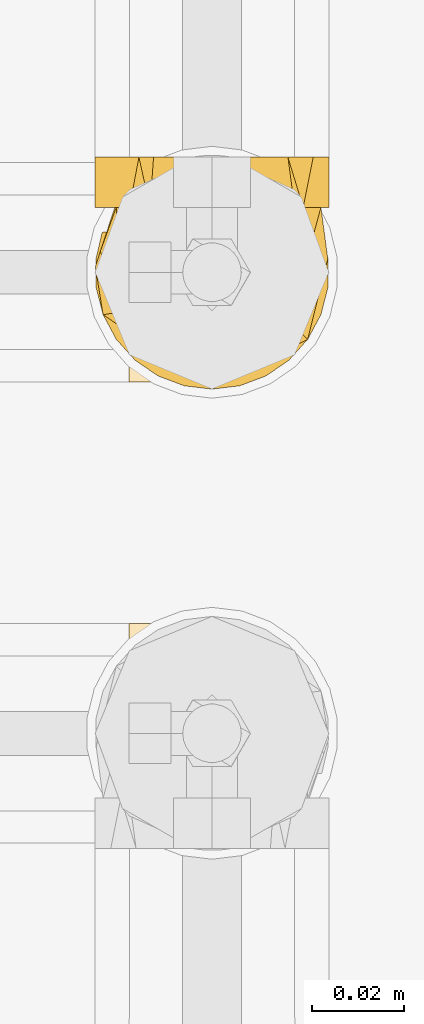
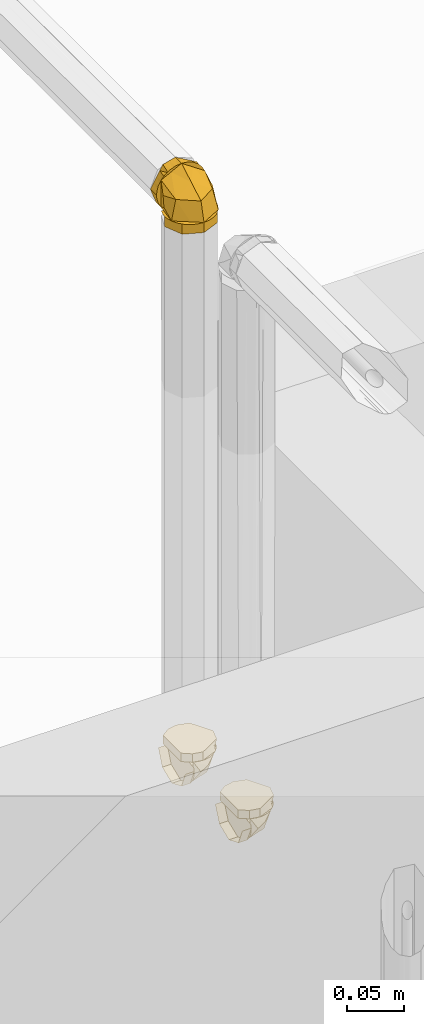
# One storey, part 396 of 652: 3 coverings.
"""IFC2X3 building model written with IfcOpenShell, lengths in millimetres."""

from ifc_helpers import new_model, entity, si_unit, converted_unit, direction, frame, origin, place, context, subcontext, project, spatial, face_set, surface_model, material, type_object, element, save


model = new_model("IFC2X3")

# Units and contexts
model_context = context("Model", 3, precision=0.01, world=frame((0.0, 0.0, 308426.39999999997)), true_north=direction((6.123233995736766e-17, 1.0)))
plan_context = context("Plan", 3, precision=0.01, world=frame((0.0, 0.0, 308426.39999999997)), true_north=direction((6.123233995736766e-17, 1.0)))
body_context = subcontext(model_context, "Body", "Model", "MODEL_VIEW")
ifc_project = project(units=[si_unit("LENGTHUNIT", "METRE", prefix="MILLI"), si_unit("AREAUNIT", "SQUARE_METRE"), si_unit("VOLUMEUNIT", "CUBIC_METRE"), converted_unit("PLANEANGLEUNIT", "DEGREE", entity("IfcPlaneAngleMeasure", 0.017453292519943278), si_unit("PLANEANGLEUNIT", "RADIAN"), dimensions=[0, 0, 0, 0, 0, 0, 0])], contexts=[model_context, plan_context])

# Site, building, storey
site_placement = place(None, origin())
site = spatial("IfcSite", under=ifc_project, at=site_placement, Name="Default", CompositionType="ELEMENT")
building_placement = place(site_placement, origin())
building = spatial("IfcBuilding", under=site, at=building_placement, CompositionType="ELEMENT")
storey_placement = place(building_placement, frame((0.0, 0.0, 1730.6999999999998)))
storey = spatial("IfcBuildingStorey", under=building, at=storey_placement, Name="EG_Produktion_FFB", CompositionType="ELEMENT", Elevation=1730.6999999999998)

# Coverings
ifc_material = material(Name="Dämmung - Armaflex-Schlauch")
covering_type = type_object("IfcCoveringType", Name="Rohrdämmung außen:Armaflex-Schlauch", PredefinedType="INSULATION")
covering_1_placement = place(storey_placement, frame((22072.92351223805, 63589.92931831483, 2674.6422277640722)))
element("IfcCovering", 1, at=covering_1_placement, inside=storey, type_object=covering_type, material=ifc_material, Name="Rohrdämmung außen:Armaflex-Schlauch", ObjectType="Rohrdämmung außen:Armaflex-Schlauch", PredefinedType="INSULATION", context=body_context, shape_type="SurfaceModel", body=[
    surface_model("IfcFaceBasedSurfaceModel", [(10.45842089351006, 47.37827577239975, 34.288272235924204), (10.45842089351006, 48.88520354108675, 28.691896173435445), (10.45842089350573, 48.99253247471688, 22.89717988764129), (10.45842089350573, 47.69387779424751, 17.248839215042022), (10.45842089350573, 45.066493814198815, 12.082882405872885), (10.458420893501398, 41.266678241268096, 7.706621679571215), (10.458420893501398, 36.520474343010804, 4.38039184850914), (10.458420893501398, 31.110224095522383, 2.3020635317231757), (10.458420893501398, 25.357772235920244, 1.595272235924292), (10.458420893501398, 19.605320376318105, 2.3020635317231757), (10.458420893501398, 14.195070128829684, 4.38039184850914), (10.458420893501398, 9.44886623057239, 7.706621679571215), (10.45842089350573, 5.649050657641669, 12.082882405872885), (10.45842089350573, 3.0216666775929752, 17.248839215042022), (10.45842089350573, 1.7230119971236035, 22.89717988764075), (10.45842089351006, 1.8303409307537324, 28.691896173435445), (10.45842089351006, 3.3372686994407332, 34.288272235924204), (16.054796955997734, 1.8303409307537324, 34.28827223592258), (21.849513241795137, 1.7230119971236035, 34.28827223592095), (27.497853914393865, 3.0216666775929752, 34.28827223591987), (32.663810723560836, 5.649050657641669, 34.28827223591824), (37.04007144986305, 9.44886623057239, 34.28827223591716), (40.36630128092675, 14.195070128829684, 34.28827223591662), (42.444629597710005, 19.605320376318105, 34.288272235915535), (43.15142089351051, 25.357772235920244, 34.288272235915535), (42.444629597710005, 31.110224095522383, 34.288272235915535), (40.36630128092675, 36.520474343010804, 34.28827223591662), (37.04007144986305, 41.266678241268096, 34.28827223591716), (32.663810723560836, 45.066493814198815, 34.28827223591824), (27.497853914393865, 47.69387779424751, 34.28827223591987), (21.849513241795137, 48.99253247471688, 34.28827223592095), (16.054796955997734, 48.88520354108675, 34.28827223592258), (25.364842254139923, 47.7165435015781, 26.166056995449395), (27.878642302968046, 41.2146147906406, 14.151674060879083), (21.432524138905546, 46.2375640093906, 34.28823564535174), (10.458775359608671, 35.09870902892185, 6.7782869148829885), (26.804289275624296, 25.35976859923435, 5.975428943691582), (37.908262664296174, 35.21033012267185, 34.28823564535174), (35.606077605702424, 25.35976859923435, 21.22013795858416), (17.539738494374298, 48.57695609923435, 22.222983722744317), (10.458775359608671, 46.22361137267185, 23.18571565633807), (25.364842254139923, 2.9983428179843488, 26.166056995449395), (17.539738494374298, 2.1379302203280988, 22.222983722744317), (27.878642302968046, 9.500271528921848, 14.151674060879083), (10.458775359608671, 15.6161772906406, 6.7782869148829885), (21.432524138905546, 4.481973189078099, 34.28823564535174), (37.96872409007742, 15.6161772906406, 34.28823564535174), (34.978208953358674, 25.35976859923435, 20.13183229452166), (10.458775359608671, 4.491274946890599, 23.18571565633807), (1.4383957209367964, 49.1211089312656, 25.357676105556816), (10.458775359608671, 49.1211089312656, 25.357676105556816), (10.458775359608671, 42.15874320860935, 8.55521333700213), (1.4383957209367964, 42.15874320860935, 8.55521333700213), (10.458775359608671, 25.35976859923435, 1.5951730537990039), (1.4383957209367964, 25.35976859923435, 1.5951730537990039), (10.458775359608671, 8.5561431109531, 8.55521333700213), (1.4383957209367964, 8.5561431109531, 8.55521333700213), (10.458775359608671, 1.5937773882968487, 25.357676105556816), (1.4383957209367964, 1.5937773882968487, 25.357676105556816), (24.53365305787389, 4.56558473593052, 43.3080222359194), (29.678385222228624, 7.5358972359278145, 43.308022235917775), (34.82311738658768, 10.506209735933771, 43.30802223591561), (39.96784955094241, 13.476522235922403, 43.30802223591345), (41.55963522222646, 19.417147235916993, 43.30802223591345), (43.151420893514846, 25.357772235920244, 43.30802223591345), (40.18110839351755, 30.502504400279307, 43.30802223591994), (37.21079589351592, 35.6472365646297, 43.308022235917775), (34.24048339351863, 40.79196872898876, 43.30802223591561), (31.270170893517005, 45.936700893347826, 43.30802223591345), (25.32954589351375, 47.528486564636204, 43.30802223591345), (19.388920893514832, 49.12027223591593, 43.30802223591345), (14.510241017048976, 48.07242355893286, 43.308022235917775), (9.63156114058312, 47.024574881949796, 43.30802223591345), (5.6134166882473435, 44.06585567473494, 43.30802223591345), (1.5952722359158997, 41.10713646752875, 43.30802223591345), (1.5952722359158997, 9.608408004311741, 43.30802223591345), (5.6134166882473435, 6.649688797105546, 43.308022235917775), (9.63156114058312, 3.690969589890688, 43.30802223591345), (14.510241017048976, 2.643120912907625, 43.30802223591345), (19.388920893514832, 1.5952722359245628, 43.30802223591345), (36.19154578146, 8.55514734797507, 34.2882722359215), (31.990889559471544, 6.81517856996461, 34.2882722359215), (27.790233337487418, 5.075209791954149, 34.2882722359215), (23.58957711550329, 3.335241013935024, 34.28827223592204), (19.388920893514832, 1.5952722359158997, 34.2882722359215), (14.510241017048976, 2.643120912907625, 34.2882722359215), (9.63156114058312, 3.690969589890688, 34.2882722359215), (5.504797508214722, 6.729669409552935, 34.2882722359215), (1.5952722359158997, 9.608408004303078, 34.2882722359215), (1.5952722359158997, 41.10713646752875, 34.2882722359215), (5.6134166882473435, 44.06585567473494, 34.2882722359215), (9.63156114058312, 47.024574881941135, 34.2882722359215), (14.642122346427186, 48.10074918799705, 34.2882722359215), (19.388920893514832, 49.12027223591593, 34.2882722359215), (23.58957711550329, 47.38030345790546, 34.2882722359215), (27.790233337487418, 45.64033467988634, 34.2882722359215), (31.990889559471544, 43.90036590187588, 34.2882722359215), (36.19154578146, 42.160397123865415, 34.2882722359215), (37.9315145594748, 37.95974090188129, 34.2882722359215), (39.671483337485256, 33.759084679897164, 34.2882722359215), (41.41145211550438, 29.558428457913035, 34.2882722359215), (43.151420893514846, 25.357772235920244, 34.2882722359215), (41.41145211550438, 21.157116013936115, 34.2882722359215), (39.671483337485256, 16.956459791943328, 34.2882722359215), (37.9315145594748, 12.755803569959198, 34.2882722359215)], [face_set([[[0, 1, 2, 3, 4, 5, 6, 7, 8, 9, 10, 11, 12, 13, 14, 15]], [[16, 17, 18, 19, 20, 21, 22, 23, 24, 25, 26, 27, 28, 29, 30, 31]], [[32, 28, 33]], [[32, 34, 28]], [[33, 35, 4]], [[35, 33, 36]], [[36, 8, 35]], [[33, 37, 38]], [[39, 4, 40]], [[32, 33, 39]], [[34, 32, 0]], [[4, 39, 33]], [[38, 36, 33]], [[0, 32, 39]], [[33, 28, 37]], [[37, 24, 38]], [[0, 39, 40]], [[41, 16, 42]], [[43, 44, 36]], [[20, 45, 41]], [[46, 43, 47]], [[44, 8, 36]], [[12, 43, 42]], [[44, 43, 12]], [[42, 16, 48]], [[20, 43, 46]], [[16, 41, 45]], [[43, 41, 42]], [[43, 36, 47]], [[47, 24, 46]], [[20, 41, 43]], [[48, 12, 42]]]), face_set([[[49, 50, 51, 52]], [[53, 54, 52, 51]], [[54, 53, 55, 56]], [[57, 58, 56, 55]]]), face_set([[[59, 60, 61, 62, 63, 64, 65, 66, 67, 68, 69, 70, 71, 72, 73, 74, 75, 76, 77, 78, 79]], [[80, 81, 82, 83, 84, 85, 86, 87, 88, 89, 90, 91, 92, 93, 94, 95, 96, 97, 98, 99, 100, 101, 102, 103, 104]], [[75, 74, 89, 88]], [[71, 70, 93, 92, 91, 72]], [[73, 72, 91, 90, 89, 74]], [[96, 67, 97]], [[64, 100, 65]], [[100, 99, 65]], [[69, 95, 94]], [[94, 93, 70]], [[67, 96, 68]], [[66, 99, 98]], [[64, 101, 100]], [[99, 66, 65]], [[70, 69, 94]], [[98, 97, 67]], [[96, 95, 68]], [[69, 68, 95]], [[66, 98, 67]], [[104, 61, 80]], [[79, 83, 59]], [[83, 82, 59]], [[63, 103, 102]], [[102, 101, 64]], [[61, 104, 62]], [[60, 82, 81]], [[79, 84, 83]], [[82, 60, 59]], [[64, 63, 102]], [[81, 80, 61]], [[104, 103, 62]], [[63, 62, 103]], [[60, 81, 61]], [[76, 75, 88, 87, 86, 77]], [[78, 77, 86, 85, 84, 79]]])]),
])
covering_2_placement = place(storey_placement, frame((22065.367160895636, 63588.34181831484, 3273.48287458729)))
element("IfcCovering", 2, at=covering_2_placement, inside=storey, type_object=covering_type, material=ifc_material, Name="Rohrdämmung außen:Armaflex-Schlauch", ObjectType="Rohrdämmung außen:Armaflex-Schlauch", PredefinedType="INSULATION", context=body_context, shape_type="SurfaceModel", body=[
    surface_model("IfcFaceBasedSurfaceModel", [(48.02950862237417, 41.01927223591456, 12.443125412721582), (50.77002630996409, 35.60573373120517, 12.4431254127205), (52.14558701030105, 29.69602400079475, 12.443125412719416), (52.0773827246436, 23.62871944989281, 12.443125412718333), (50.56932098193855, 17.7514253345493, 12.44312541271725), (47.707800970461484, 12.400860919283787, 12.44312541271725), (43.65676359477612, 7.883568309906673, 12.443125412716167), (38.64829904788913, 4.458350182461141, 12.443125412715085), (32.96935000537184, 2.321442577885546, 12.443125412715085), (26.9452722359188, 1.5952722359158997, 12.443125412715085), (20.92119446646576, 2.321442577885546, 12.443125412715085), (15.242245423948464, 4.458350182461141, 12.443125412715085), (10.233780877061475, 7.883568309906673, 12.443125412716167), (6.182743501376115, 12.400860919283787, 12.44312541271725), (3.321223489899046, 17.7514253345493, 12.44312541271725), (1.8131617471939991, 23.62871944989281, 12.443125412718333), (1.7449574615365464, 29.69602400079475, 12.443125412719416), (3.1205181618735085, 35.60573373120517, 12.4431254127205), (5.861035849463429, 41.01927223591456, 12.443125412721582), (50.77002630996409, 41.01927223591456, 17.856663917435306), (52.14558701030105, 41.01927223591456, 23.766373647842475), (52.0773827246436, 41.01927223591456, 29.8336781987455), (50.56932098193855, 41.01927223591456, 35.71097231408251), (47.707800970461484, 41.019272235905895, 41.06153672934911), (43.65676359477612, 41.019272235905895, 45.57882933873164), (38.64829904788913, 41.019272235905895, 49.00404746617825), (32.96935000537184, 41.019272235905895, 51.14095507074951), (26.9452722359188, 41.019272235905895, 51.86712541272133), (20.92119446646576, 41.019272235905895, 51.14095507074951), (15.242245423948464, 41.019272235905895, 49.00404746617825), (10.233780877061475, 41.019272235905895, 45.57882933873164), (6.182743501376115, 41.019272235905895, 41.06153672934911), (3.321223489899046, 41.01927223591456, 35.71097231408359), (1.8131617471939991, 41.01927223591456, 29.8336781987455), (1.7449574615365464, 41.01927223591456, 23.766373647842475), (3.1205181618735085, 41.01927223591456, 17.856663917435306), (52.05490941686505, 29.872671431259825, 26.012413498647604), (43.78564672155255, 16.064211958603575, 34.06831712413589), (37.62090673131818, 7.153127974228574, 12.442892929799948), (26.944814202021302, 6.878726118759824, 32.15506181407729), (47.86911840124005, 26.710073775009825, 12.442892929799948), (38.758046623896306, 41.020828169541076, 43.78923539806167), (26.944814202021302, 23.947451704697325, 42.01085557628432), (49.33647069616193, 41.020828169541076, 24.40611619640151), (1.6463583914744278, 28.105337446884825, 21.334792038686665), (7.957601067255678, 18.426858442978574, 33.48056230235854), (16.271047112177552, 41.020828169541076, 46.31175584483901), (17.229128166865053, 8.241433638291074, 12.442892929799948), (2.7090842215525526, 31.440017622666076, 31.701601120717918), (4.590364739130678, 29.384329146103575, 12.442892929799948), (5.992604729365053, 41.020828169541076, 24.214267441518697), (52.29442968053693, 26.947268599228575, 1.5499531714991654), (52.29442968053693, 26.947268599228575, 12.442892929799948), (44.8693015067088, 9.018130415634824, 12.442892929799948), (44.8693015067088, 9.018130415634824, 1.5499531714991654), (26.944814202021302, 1.5953276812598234, 12.442892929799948), (26.944814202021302, 1.5953276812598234, 1.5499531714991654), (9.020326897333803, 9.018130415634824, 12.442892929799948), (9.020326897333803, 9.018130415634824, 1.5499531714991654), (1.5951987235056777, 26.947268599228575, 12.442892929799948), (1.5951987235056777, 26.947268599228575, 1.5499531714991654), (22.305904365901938, 51.91227223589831, 1.5952722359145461), (14.877316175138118, 51.91227223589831, 5.955160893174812), (7.448727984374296, 51.91227223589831, 10.315049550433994), (4.522000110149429, 51.91227223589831, 18.416087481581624), (1.5952722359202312, 51.91227223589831, 26.51712541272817), (4.7640222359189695, 51.912272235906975, 32.005561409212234), (7.932772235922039, 51.91227223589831, 37.49399740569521), (11.101522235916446, 51.91227223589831, 42.982433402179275), (14.270272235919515, 51.91227223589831, 48.47086939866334), (20.607772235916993, 51.91227223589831, 50.1689974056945), (26.9452722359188, 51.91227223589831, 51.86712541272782), (32.433708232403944, 51.912272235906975, 48.698375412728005), (37.92214422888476, 51.91227223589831, 45.52962541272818), (43.410580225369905, 51.91227223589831, 42.36087541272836), (48.89901622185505, 51.91227223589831, 39.19212541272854), (50.597144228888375, 51.91227223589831, 32.85462541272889), (52.295272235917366, 51.91227223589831, 26.51712541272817), (49.36854436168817, 51.91227223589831, 18.416087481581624), (46.441816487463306, 51.91227223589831, 10.315049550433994), (39.01322829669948, 51.91227223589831, 5.955160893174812), (31.584640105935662, 51.91227223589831, 1.5952722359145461), (9.020115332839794, 41.019272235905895, 44.44228231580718), (7.163904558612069, 41.019272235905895, 39.96099309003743), (5.307693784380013, 41.019272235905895, 35.47970386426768), (3.4514830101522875, 41.01927223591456, 30.998414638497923), (1.5952722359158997, 41.019272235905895, 26.51712541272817), (4.522000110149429, 41.019272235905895, 18.416087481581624), (7.448727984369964, 41.019272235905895, 10.315049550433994), (14.761316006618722, 41.019272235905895, 6.023242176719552), (18.53361018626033, 41.019272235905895, 3.8092572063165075), (22.305904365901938, 41.019272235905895, 1.5952722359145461), (31.584640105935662, 41.019272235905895, 1.5952722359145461), (39.01322829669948, 41.019272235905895, 5.955160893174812), (46.441816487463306, 41.019272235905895, 10.315049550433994), (49.32284242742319, 41.019272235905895, 18.289586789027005), (50.80905733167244, 41.01927223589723, 22.403356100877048), (52.295272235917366, 41.019272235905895, 26.51712541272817), (50.43906146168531, 41.01927223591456, 30.998414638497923), (48.58285068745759, 41.01927223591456, 35.47970386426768), (46.72663991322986, 41.019272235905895, 39.96099309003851), (44.87042913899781, 41.019272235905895, 44.44228231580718), (40.38913991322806, 41.01927223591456, 46.29849309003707), (35.9078506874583, 41.019272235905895, 48.15470386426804), (31.42656146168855, 41.01927223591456, 50.01091463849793), (26.9452722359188, 41.019272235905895, 51.86712541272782), (22.463983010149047, 41.01927223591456, 50.01091463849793), (17.982693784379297, 41.019272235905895, 48.15470386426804), (13.501404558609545, 41.01927223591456, 46.29849309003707)], [face_set([[[0, 1, 2, 3, 4, 5, 6, 7, 8, 9, 10, 11, 12, 13, 14, 15, 16, 17]], [[18, 19, 20, 21, 22, 23, 24, 25, 26, 27, 28, 29, 30, 31, 32, 33, 34, 35]], [[36, 22, 37]], [[37, 38, 5]], [[39, 9, 38]], [[36, 5, 40, 0]], [[39, 38, 37]], [[41, 42, 37]], [[43, 22, 36]], [[36, 37, 5]], [[0, 43, 36]], [[37, 22, 41]], [[42, 41, 27]], [[42, 39, 37]], [[44, 14, 45]], [[46, 31, 45]], [[46, 45, 42]], [[47, 9, 39]], [[48, 44, 45]], [[47, 45, 14]], [[18, 49, 44]], [[39, 45, 47]], [[18, 44, 48]], [[31, 50, 48]], [[18, 48, 50]], [[45, 39, 42]], [[42, 27, 46]], [[31, 48, 45]], [[49, 14, 44]]]), face_set([[[51, 52, 53, 54]], [[55, 56, 54, 53]], [[56, 55, 57, 58]], [[59, 60, 58, 57]]]), face_set([[[61, 62, 63, 64, 65, 66, 67, 68, 69, 70, 71, 72, 73, 74, 75, 76, 77, 78, 79, 80, 81]], [[82, 83, 84, 85, 86, 87, 88, 89, 90, 91, 92, 93, 94, 95, 96, 97, 98, 99, 100, 101, 102, 103, 104, 105, 106, 107, 108]], [[61, 81, 92, 91]], [[79, 78, 77, 97, 96, 95, 94]], [[80, 79, 94, 93, 92, 81]], [[100, 74, 101]], [[71, 104, 72]], [[104, 103, 72]], [[76, 99, 98]], [[98, 97, 77]], [[74, 100, 75]], [[73, 103, 102]], [[71, 105, 104]], [[103, 73, 72]], [[77, 76, 98]], [[102, 101, 74]], [[100, 99, 75]], [[76, 75, 99]], [[73, 102, 74]], [[108, 68, 82]], [[65, 85, 66]], [[85, 84, 66]], [[70, 107, 106]], [[106, 105, 71]], [[68, 108, 69]], [[67, 84, 83]], [[65, 86, 85]], [[84, 67, 66]], [[71, 70, 106]], [[83, 82, 68]], [[108, 107, 69]], [[70, 69, 107]], [[67, 83, 68]], [[63, 62, 61, 91, 90, 89, 88]], [[64, 63, 88, 87, 86, 65]]])]),
])
covering_3_placement = place(storey_placement, frame((22072.923512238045, 63489.92931831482, 2674.642227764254)))
element("IfcCovering", 3, at=covering_3_placement, inside=storey, type_object=covering_type, material=ifc_material, Name="Rohrdämmung außen:Armaflex-Schlauch", ObjectType="Rohrdämmung außen:Armaflex-Schlauch", PredefinedType="INSULATION", context=body_context, shape_type="SurfaceModel", body=[
    surface_model("IfcFaceBasedSurfaceModel", [(10.45842089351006, 47.37827577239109, 34.288272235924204), (10.45842089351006, 48.88520354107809, 28.691896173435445), (10.45842089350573, 48.99253247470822, 22.89717988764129), (10.45842089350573, 47.69387779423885, 17.248839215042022), (10.45842089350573, 45.06649381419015, 12.082882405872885), (10.458420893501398, 41.266678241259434, 7.706621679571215), (10.458420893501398, 36.52047434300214, 4.38039184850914), (10.458420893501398, 31.11022409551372, 2.3020635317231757), (10.458420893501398, 25.35777223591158, 1.595272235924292), (10.458420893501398, 19.605320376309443, 2.3020635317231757), (10.458420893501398, 14.19507012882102, 4.38039184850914), (10.458420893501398, 9.448866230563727, 7.706621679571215), (10.45842089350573, 5.649050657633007, 12.082882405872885), (10.45842089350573, 3.0216666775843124, 17.248839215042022), (10.45842089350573, 1.7230119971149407, 22.89717988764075), (10.45842089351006, 1.8303409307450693, 28.691896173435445), (10.45842089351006, 3.3372686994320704, 34.288272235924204), (16.054796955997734, 1.8303409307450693, 34.28827223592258), (21.849513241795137, 1.7230119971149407, 34.28827223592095), (27.497853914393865, 3.0216666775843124, 34.28827223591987), (32.663810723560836, 5.649050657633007, 34.28827223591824), (37.04007144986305, 9.448866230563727, 34.28827223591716), (40.36630128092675, 14.19507012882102, 34.28827223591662), (42.444629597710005, 19.605320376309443, 34.288272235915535), (43.15142089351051, 25.35777223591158, 34.288272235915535), (42.444629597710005, 31.11022409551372, 34.288272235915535), (40.36630128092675, 36.52047434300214, 34.28827223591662), (37.04007144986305, 41.266678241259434, 34.28827223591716), (32.663810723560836, 45.06649381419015, 34.28827223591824), (27.497853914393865, 47.69387779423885, 34.28827223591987), (21.849513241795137, 48.99253247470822, 34.28827223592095), (16.054796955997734, 48.88520354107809, 34.28827223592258), (25.364842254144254, 47.71799613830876, 26.166056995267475), (27.878642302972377, 41.216067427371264, 14.151674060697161), (21.43252413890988, 46.23436576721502, 34.28823564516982), (10.458775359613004, 35.09551078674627, 6.7782869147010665), (26.80428927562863, 25.356570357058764, 5.975428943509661), (37.9082626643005, 35.21178275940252, 34.28823564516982), (35.60607760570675, 25.356570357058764, 21.22013795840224), (17.53973849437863, 48.573757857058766, 22.222983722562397), (10.458775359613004, 46.22041313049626, 23.185715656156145), (25.364842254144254, 2.999795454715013, 26.166056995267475), (17.53973849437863, 2.139382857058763, 22.222983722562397), (27.878642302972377, 9.497073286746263, 14.151674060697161), (10.458775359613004, 15.617629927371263, 6.7782869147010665), (21.43252413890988, 4.478774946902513, 34.28823564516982), (37.96872409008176, 15.617629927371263, 34.28823564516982), (34.978208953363, 25.356570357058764, 20.131832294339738), (10.458775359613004, 4.492727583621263, 23.185715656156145), (1.4383957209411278, 49.122561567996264, 25.357676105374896), (10.458775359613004, 49.122561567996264, 25.357676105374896), (10.458775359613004, 42.16019584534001, 8.555213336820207), (1.4383957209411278, 42.16019584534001, 8.555213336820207), (10.458775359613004, 25.356570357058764, 1.595173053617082), (1.4383957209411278, 25.356570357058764, 1.595173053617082), (10.458775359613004, 8.552944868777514, 8.555213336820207), (1.4383957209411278, 8.552944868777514, 8.555213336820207), (10.458775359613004, 1.595230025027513, 25.357676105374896), (1.4383957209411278, 1.595230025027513, 25.357676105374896), (24.53365305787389, 4.565584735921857, 43.3080222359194), (29.678385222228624, 7.535897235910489, 43.308022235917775), (34.82311738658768, 10.506209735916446, 43.30802223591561), (39.96784955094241, 13.47652223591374, 43.30802223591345), (41.559635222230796, 19.417147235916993, 43.30802223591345), (43.151420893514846, 25.35777223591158, 43.30802223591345), (40.18110839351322, 30.50250440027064, 43.30802223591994), (37.21079589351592, 35.6472365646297, 43.308022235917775), (34.24048339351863, 40.7919687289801, 43.30802223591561), (31.270170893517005, 45.936700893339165, 43.30802223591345), (25.329545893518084, 47.52848656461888, 43.30802223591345), (19.388920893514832, 49.12027223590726, 43.30802223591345), (14.510241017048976, 48.0724235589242, 43.308022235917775), (9.63156114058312, 47.024574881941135, 43.30802223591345), (5.613416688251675, 44.06585567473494, 43.30802223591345), (1.5952722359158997, 41.107136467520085, 43.30802223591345), (1.5952722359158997, 9.608408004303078, 43.30802223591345), (5.613416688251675, 6.64968879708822, 43.308022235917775), (9.63156114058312, 3.690969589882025, 43.30802223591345), (14.510241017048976, 2.6431209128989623, 43.30802223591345), (19.388920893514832, 1.5952722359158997, 43.30802223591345), (36.19154578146, 8.55514734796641, 34.2882722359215), (31.990889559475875, 6.815178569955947, 34.2882722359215), (27.790233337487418, 5.075209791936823, 34.2882722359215), (23.58957711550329, 3.335241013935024, 34.28827223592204), (19.388920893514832, 1.5952722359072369, 34.2882722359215), (14.510241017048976, 2.6431209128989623, 34.2882722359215), (9.63156114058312, 3.690969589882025, 34.2882722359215), (5.504797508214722, 6.729669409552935, 34.2882722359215), (1.5952722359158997, 9.608408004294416, 34.2882722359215), (1.5952722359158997, 41.107136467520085, 34.2882722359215), (5.613416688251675, 44.06585567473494, 34.2882722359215), (9.63156114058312, 47.02457488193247, 34.2882722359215), (14.642122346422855, 48.10074918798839, 34.2882722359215), (19.388920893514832, 49.12027223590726, 34.2882722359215), (23.58957711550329, 47.3803034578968, 34.2882722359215), (27.790233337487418, 45.64033467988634, 34.2882722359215), (31.990889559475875, 43.90036590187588, 34.2882722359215), (36.19154578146, 42.160397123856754, 34.2882722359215), (37.9315145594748, 37.95974090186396, 34.2882722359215), (39.67148333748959, 33.759084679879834, 34.2882722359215), (41.41145211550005, 29.558428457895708, 34.2882722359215), (43.151420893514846, 25.35777223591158, 34.2882722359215), (41.41145211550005, 21.157116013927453, 34.2882722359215), (39.67148333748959, 16.956459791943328, 34.2882722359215), (37.9315145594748, 12.755803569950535, 34.2882722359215)], [face_set([[[0, 1, 2, 3, 4, 5, 6, 7, 8, 9, 10, 11, 12, 13, 14, 15]], [[16, 17, 18, 19, 20, 21, 22, 23, 24, 25, 26, 27, 28, 29, 30, 31]], [[32, 28, 33]], [[32, 34, 28]], [[33, 35, 4]], [[35, 33, 36]], [[36, 8, 35]], [[33, 37, 38]], [[39, 4, 40]], [[32, 33, 39]], [[34, 32, 0]], [[4, 39, 33]], [[38, 36, 33]], [[0, 32, 39]], [[33, 28, 37]], [[37, 24, 38]], [[0, 39, 40]], [[41, 16, 42]], [[43, 44, 36]], [[20, 45, 41]], [[46, 43, 47]], [[44, 8, 36]], [[12, 43, 42]], [[44, 43, 12]], [[42, 16, 48]], [[20, 43, 46]], [[16, 41, 45]], [[43, 41, 42]], [[43, 36, 47]], [[47, 24, 46]], [[20, 41, 43]], [[48, 12, 42]]]), face_set([[[49, 50, 51, 52]], [[53, 54, 52, 51]], [[54, 53, 55, 56]], [[57, 58, 56, 55]]]), face_set([[[59, 60, 61, 62, 63, 64, 65, 66, 67, 68, 69, 70, 71, 72, 73, 74, 75, 76, 77, 78, 79]], [[80, 81, 82, 83, 84, 85, 86, 87, 88, 89, 90, 91, 92, 93, 94, 95, 96, 97, 98, 99, 100, 101, 102, 103, 104]], [[75, 74, 89, 88]], [[71, 70, 93, 92, 91, 72]], [[73, 72, 91, 90, 89, 74]], [[96, 67, 97]], [[64, 100, 65]], [[100, 99, 65]], [[69, 95, 94]], [[94, 93, 70]], [[67, 96, 68]], [[66, 99, 98]], [[64, 101, 100]], [[99, 66, 65]], [[70, 69, 94]], [[98, 97, 67]], [[96, 95, 68]], [[69, 68, 95]], [[66, 98, 67]], [[104, 61, 80]], [[79, 83, 59]], [[83, 82, 59]], [[63, 103, 102]], [[102, 101, 64]], [[61, 104, 62]], [[60, 82, 81]], [[79, 84, 83]], [[82, 60, 59]], [[64, 63, 102]], [[81, 80, 61]], [[104, 103, 62]], [[63, 62, 103]], [[60, 81, 61]], [[76, 75, 88, 87, 86, 77]], [[78, 77, 86, 85, 84, 79]]])]),
])

save(model, "model.ifc")
